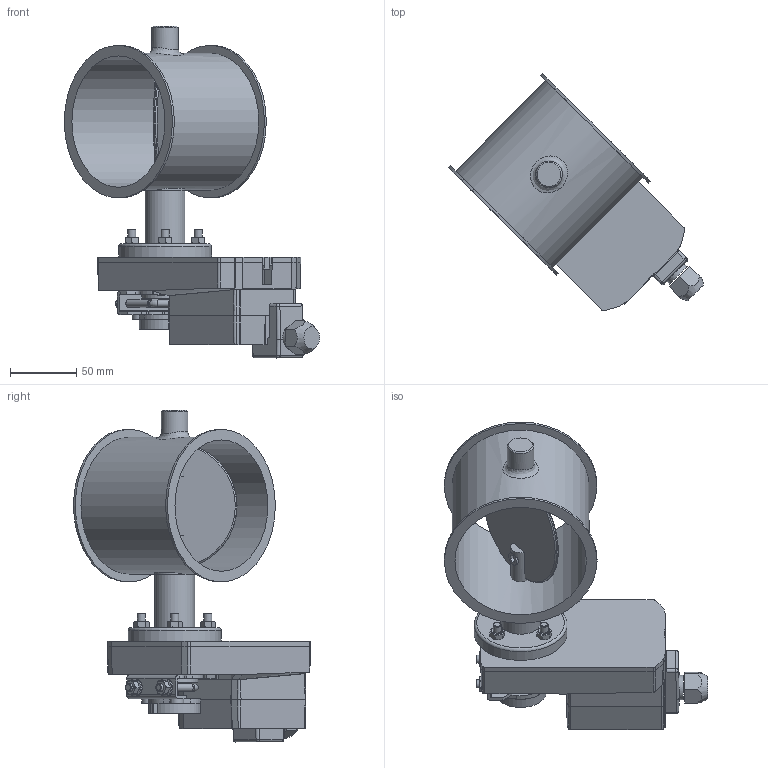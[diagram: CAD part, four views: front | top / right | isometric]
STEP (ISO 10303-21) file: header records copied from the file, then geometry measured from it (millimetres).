
FILE_DESCRIPTION((''),'2;1');
FILE_NAME('U:\Wolfgang\Marcel-3D\fertig\Kapitel 8\1021215.stp','2012-05-07T12:53:36',('iwienholt'),(''),'Autodesk Inventor 2010','Autodesk Inventor 2010','');
FILE_SCHEMA(('AUTOMOTIVE_DESIGN { 1 0 10303 214 1 1 1 1 }'));
Length unit declared in the file: millimetre
Products named in the file (11): 1021215; Bolzen D15; Scheibe100; DIN 6912 M6 x 16; 1021211-1; SM24A-Antrieb; BuchseD15 70-50; Distanzstück S; SM24A--A_standard_terminal_1cable; DIN 7991 M6x25; DIN 555 - ersetzt durch DIN EN 24034 M6
Assembly tree (18 placements, depth 3):
  1021215
    Bolzen D15  x2
    Scheibe100
    DIN 6912 M6 x 16  x2
    1021211-1
    SM24A-Antrieb
      BuchseD15 70-50
      Distanzstück S
      SM24A--A_standard_terminal_1cable
      DIN 7991 M6x25  x4
      DIN 555 - ersetzt durch DIN EN 24034 M6  x4
Bounding box: 192.22 x 178.52 x 250 mm (x, y, z)
Volume: 692430.1 mm3; surface area: 211058.7 mm2
Topology: 20 solids, 20 shells, 712 faces, 1775 edges, 1138 vertices
Faces by surface type: plane 381, cylinder 179, bspline 86, cone 38, torus 20, sphere 8
Full cylindrical faces by diameter (mm): 3 x2, 3.6 x2, 4.2 x4, 4.773 x4, 4.813 x4, 5.1 x1, 5.25 x4, 6 x14, 7 x4, 9.742 x1, 10 x4, 10.083 x1, 12 x4, 14 x4, 15 x2, 15.5 x1, 18.5 x1, 20 x1, 24 x1, 25.194 x1, 26 x2, 30 x2, 30.042 x1, 35 x2, 70 x1, 95 x1, 99 x1, 103 x1, 115 x2
Entity records: 19785 total; most frequent: CARTESIAN_POINT 5154, ORIENTED_EDGE 2838, DIRECTION 2734, EDGE_CURVE 1419, AXIS2_PLACEMENT_3D 976, VERTEX_POINT 966, VECTOR 782, LINE 782
